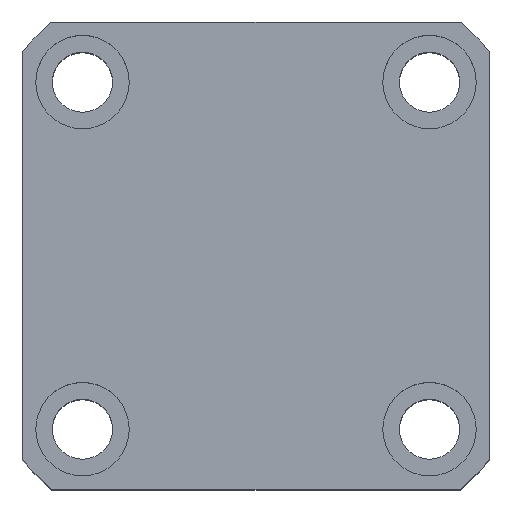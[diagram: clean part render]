
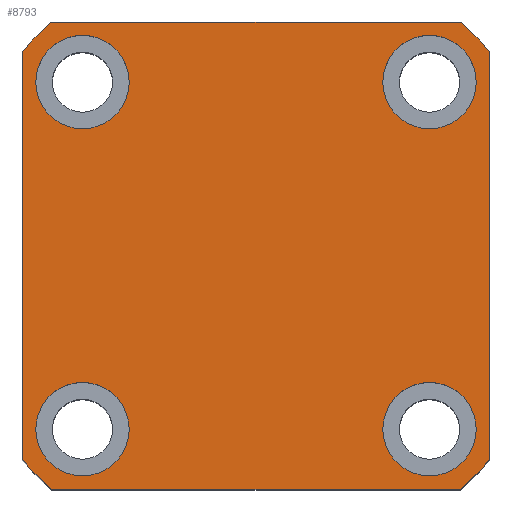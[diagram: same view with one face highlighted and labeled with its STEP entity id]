
A CAD part, top view. The second image highlights one B-rep face of the part: STEP entity #8793.
In plain terms, the highlighted planar face has unit normal (0, 0, 1).
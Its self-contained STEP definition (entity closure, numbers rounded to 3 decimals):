
#30 = VERTEX_POINT ( 'NONE', #6334 ) ;
#150 = DIRECTION ( 'NONE',  ( 1., 0., 0. ) ) ;
#218 = AXIS2_PLACEMENT_3D ( 'NONE', #8023, #3421, #8804 ) ;
#259 = DIRECTION ( 'NONE',  ( 1., 0., 0. ) ) ;
#336 = AXIS2_PLACEMENT_3D ( 'NONE', #3200, #8593, #3997 ) ;
#337 = DIRECTION ( 'NONE',  ( 1., 0., 0. ) ) ;
#611 = CARTESIAN_POINT ( 'NONE',  ( 0., 0., 70. ) ) ;
#653 = DIRECTION ( 'NONE',  ( 0., 0., 1. ) ) ;
#700 = EDGE_CURVE ( 'NONE', #976, #7197, #9334, .T. ) ;
#716 = ORIENTED_EDGE ( 'NONE', *, *, #6580, .F. ) ;
#734 = EDGE_CURVE ( 'NONE', #7418, #1880, #2719, .T. ) ;
#741 = CARTESIAN_POINT ( 'NONE',  ( -26., 26., 70. ) ) ;
#779 = DIRECTION ( 'NONE',  ( 1., 0., 0. ) ) ;
#831 = EDGE_CURVE ( 'NONE', #1880, #2671, #3806, .T. ) ;
#976 = VERTEX_POINT ( 'NONE', #5975 ) ;
#1054 = FACE_BOUND ( 'NONE', #9702, .T. ) ;
#1083 = CARTESIAN_POINT ( 'NONE',  ( 0., 0., 70. ) ) ;
#1089 = EDGE_CURVE ( 'NONE', #6070, #9196, #6915, .T. ) ;
#1149 = CARTESIAN_POINT ( 'NONE',  ( -19., -26., 70. ) ) ;
#1289 = EDGE_LOOP ( 'NONE', ( #6185, #2980, #2199, #9756, #9054, #7567, #2613, #7165 ) ) ;
#1307 = FACE_BOUND ( 'NONE', #6505, .T. ) ;
#1408 = DIRECTION ( 'NONE',  ( 1., 0., 0. ) ) ;
#1418 = LINE ( 'NONE', #5516, #1919 ) ;
#1436 = CIRCLE ( 'NONE', #6805, 7. ) ;
#1457 = AXIS2_PLACEMENT_3D ( 'NONE', #8721, #4118, #9504 ) ;
#1473 = EDGE_CURVE ( 'NONE', #4338, #3398, #1436, .T. ) ;
#1477 = ORIENTED_EDGE ( 'NONE', *, *, #700, .F. ) ;
#1479 = VECTOR ( 'NONE', #7550, 1000. ) ;
#1505 = CARTESIAN_POINT ( 'NONE',  ( 19., 26., 70. ) ) ;
#1540 = CARTESIAN_POINT ( 'NONE',  ( 33., -26., 70. ) ) ;
#1800 = EDGE_CURVE ( 'NONE', #30, #9366, #6656, .T. ) ;
#1822 = ORIENTED_EDGE ( 'NONE', *, *, #9448, .F. ) ;
#1880 = VERTEX_POINT ( 'NONE', #4173 ) ;
#1919 = VECTOR ( 'NONE', #7810, 1000. ) ;
#2041 = AXIS2_PLACEMENT_3D ( 'NONE', #2856, #4378, #6917 ) ;
#2043 = DIRECTION ( 'NONE',  ( 1., 0., 0. ) ) ;
#2062 = VERTEX_POINT ( 'NONE', #9673 ) ;
#2068 = DIRECTION ( 'NONE',  ( 0., 0., 1. ) ) ;
#2199 = ORIENTED_EDGE ( 'NONE', *, *, #2474, .T. ) ;
#2474 = EDGE_CURVE ( 'NONE', #8173, #4625, #3761, .T. ) ;
#2499 = CARTESIAN_POINT ( 'NONE',  ( 33., 26., 70. ) ) ;
#2613 = ORIENTED_EDGE ( 'NONE', *, *, #5944, .T. ) ;
#2661 = PLANE ( 'NONE',  #3678 ) ;
#2671 = VERTEX_POINT ( 'NONE', #7110 ) ;
#2719 = CIRCLE ( 'NONE', #2041, 46.5 ) ;
#2856 = CARTESIAN_POINT ( 'NONE',  ( 0., 0., 70. ) ) ;
#2859 = AXIS2_PLACEMENT_3D ( 'NONE', #3781, #5003, #2043 ) ;
#2947 = DIRECTION ( 'NONE',  ( 0., 0., 1. ) ) ;
#2980 = ORIENTED_EDGE ( 'NONE', *, *, #4254, .T. ) ;
#2994 = CIRCLE ( 'NONE', #7056, 7. ) ;
#3114 = FACE_OUTER_BOUND ( 'NONE', #1289, .T. ) ;
#3183 = EDGE_CURVE ( 'NONE', #5412, #8175, #1418, .T. ) ;
#3200 = CARTESIAN_POINT ( 'NONE',  ( 0., 0., 70. ) ) ;
#3275 = CARTESIAN_POINT ( 'NONE',  ( -35., -30.615, 70. ) ) ;
#3398 = VERTEX_POINT ( 'NONE', #5619 ) ;
#3421 = DIRECTION ( 'NONE',  ( 0., 0., 1. ) ) ;
#3592 = EDGE_CURVE ( 'NONE', #9196, #6070, #4103, .T. ) ;
#3678 = AXIS2_PLACEMENT_3D ( 'NONE', #1083, #5006, #337 ) ;
#3693 = ORIENTED_EDGE ( 'NONE', *, *, #1800, .F. ) ;
#3761 = LINE ( 'NONE', #8975, #4262 ) ;
#3781 = CARTESIAN_POINT ( 'NONE',  ( 26., 26., 70. ) ) ;
#3806 = LINE ( 'NONE', #6780, #1479 ) ;
#3926 = DIRECTION ( 'NONE',  ( 0., 0., 1. ) ) ;
#3997 = DIRECTION ( 'NONE',  ( 1., 0., 0. ) ) ;
#4028 = AXIS2_PLACEMENT_3D ( 'NONE', #9450, #4832, #150 ) ;
#4103 = CIRCLE ( 'NONE', #8091, 7. ) ;
#4118 = DIRECTION ( 'NONE',  ( 0., 0., 1. ) ) ;
#4173 = CARTESIAN_POINT ( 'NONE',  ( 35., -30.615, 70. ) ) ;
#4254 = EDGE_CURVE ( 'NONE', #2671, #8173, #8314, .T. ) ;
#4262 = VECTOR ( 'NONE', #5219, 1000. ) ;
#4338 = VERTEX_POINT ( 'NONE', #4996 ) ;
#4378 = DIRECTION ( 'NONE',  ( 0., 0., 1. ) ) ;
#4462 = CIRCLE ( 'NONE', #5232, 7. ) ;
#4523 = CARTESIAN_POINT ( 'NONE',  ( -26., 26., 70. ) ) ;
#4583 = CIRCLE ( 'NONE', #6963, 46.5 ) ;
#4611 = EDGE_CURVE ( 'NONE', #7197, #976, #6520, .T. ) ;
#4625 = VERTEX_POINT ( 'NONE', #4961 ) ;
#4825 = AXIS2_PLACEMENT_3D ( 'NONE', #8380, #653, #8880 ) ;
#4831 = CARTESIAN_POINT ( 'NONE',  ( 30.615, 35., 70. ) ) ;
#4832 = DIRECTION ( 'NONE',  ( 0., 0., 1. ) ) ;
#4961 = CARTESIAN_POINT ( 'NONE',  ( -30.615, 35., 70. ) ) ;
#4996 = CARTESIAN_POINT ( 'NONE',  ( -33., 26., 70. ) ) ;
#5003 = DIRECTION ( 'NONE',  ( 0., 0., 1. ) ) ;
#5006 = DIRECTION ( 'NONE',  ( 0., 0., 1. ) ) ;
#5083 = EDGE_CURVE ( 'NONE', #4625, #5412, #4583, .T. ) ;
#5205 = FACE_BOUND ( 'NONE', #8396, .T. ) ;
#5219 = DIRECTION ( 'NONE',  ( -1., 0., 0. ) ) ;
#5232 = AXIS2_PLACEMENT_3D ( 'NONE', #4523, #9901, #5294 ) ;
#5294 = DIRECTION ( 'NONE',  ( 1., 0., 0. ) ) ;
#5412 = VERTEX_POINT ( 'NONE', #8150 ) ;
#5467 = ORIENTED_EDGE ( 'NONE', *, *, #4611, .F. ) ;
#5516 = CARTESIAN_POINT ( 'NONE',  ( -35., 35., 70. ) ) ;
#5619 = CARTESIAN_POINT ( 'NONE',  ( -19., 26., 70. ) ) ;
#5660 = CARTESIAN_POINT ( 'NONE',  ( 30.615, -35., 70. ) ) ;
#5713 = CARTESIAN_POINT ( 'NONE',  ( -35., -35., 70. ) ) ;
#5732 = EDGE_LOOP ( 'NONE', ( #716, #7883 ) ) ;
#5782 = CIRCLE ( 'NONE', #336, 46.5 ) ;
#5944 = EDGE_CURVE ( 'NONE', #2062, #7418, #8652, .T. ) ;
#5975 = CARTESIAN_POINT ( 'NONE',  ( 19., -26., 70. ) ) ;
#6060 = DIRECTION ( 'NONE',  ( 0., 0., 1. ) ) ;
#6070 = VERTEX_POINT ( 'NONE', #1505 ) ;
#6185 = ORIENTED_EDGE ( 'NONE', *, *, #831, .T. ) ;
#6334 = CARTESIAN_POINT ( 'NONE',  ( -33., -26., 70. ) ) ;
#6505 = EDGE_LOOP ( 'NONE', ( #5467, #1477 ) ) ;
#6514 = ORIENTED_EDGE ( 'NONE', *, *, #3592, .F. ) ;
#6520 = CIRCLE ( 'NONE', #218, 7. ) ;
#6580 = EDGE_CURVE ( 'NONE', #3398, #4338, #4462, .T. ) ;
#6656 = CIRCLE ( 'NONE', #4028, 7. ) ;
#6706 = CARTESIAN_POINT ( 'NONE',  ( -26., -26., 70. ) ) ;
#6780 = CARTESIAN_POINT ( 'NONE',  ( 35., 35., 70. ) ) ;
#6805 = AXIS2_PLACEMENT_3D ( 'NONE', #741, #3926, #779 ) ;
#6826 = EDGE_CURVE ( 'NONE', #8175, #2062, #5782, .T. ) ;
#6915 = CIRCLE ( 'NONE', #2859, 7. ) ;
#6917 = DIRECTION ( 'NONE',  ( 1., 0., 0. ) ) ;
#6963 = AXIS2_PLACEMENT_3D ( 'NONE', #611, #6060, #1408 ) ;
#7056 = AXIS2_PLACEMENT_3D ( 'NONE', #6706, #2068, #7490 ) ;
#7110 = CARTESIAN_POINT ( 'NONE',  ( 35., 30.615, 70. ) ) ;
#7165 = ORIENTED_EDGE ( 'NONE', *, *, #734, .T. ) ;
#7197 = VERTEX_POINT ( 'NONE', #1540 ) ;
#7418 = VERTEX_POINT ( 'NONE', #5660 ) ;
#7490 = DIRECTION ( 'NONE',  ( 1., 0., 0. ) ) ;
#7550 = DIRECTION ( 'NONE',  ( 0., 1., 0. ) ) ;
#7567 = ORIENTED_EDGE ( 'NONE', *, *, #6826, .T. ) ;
#7574 = CARTESIAN_POINT ( 'NONE',  ( 26., 26., 70. ) ) ;
#7810 = DIRECTION ( 'NONE',  ( 0., -1., 0. ) ) ;
#7820 = VECTOR ( 'NONE', #259, 1000. ) ;
#7883 = ORIENTED_EDGE ( 'NONE', *, *, #1473, .F. ) ;
#8023 = CARTESIAN_POINT ( 'NONE',  ( 26., -26., 70. ) ) ;
#8091 = AXIS2_PLACEMENT_3D ( 'NONE', #7574, #2947, #8352 ) ;
#8150 = CARTESIAN_POINT ( 'NONE',  ( -35., 30.615, 70. ) ) ;
#8173 = VERTEX_POINT ( 'NONE', #4831 ) ;
#8175 = VERTEX_POINT ( 'NONE', #3275 ) ;
#8314 = CIRCLE ( 'NONE', #1457, 46.5 ) ;
#8352 = DIRECTION ( 'NONE',  ( 1., 0., 0. ) ) ;
#8380 = CARTESIAN_POINT ( 'NONE',  ( 26., -26., 70. ) ) ;
#8396 = EDGE_LOOP ( 'NONE', ( #1822, #3693 ) ) ;
#8593 = DIRECTION ( 'NONE',  ( 0., 0., 1. ) ) ;
#8652 = LINE ( 'NONE', #5713, #7820 ) ;
#8721 = CARTESIAN_POINT ( 'NONE',  ( 0., 0., 70. ) ) ;
#8793 = ADVANCED_FACE ( 'NONE', ( #5205, #1307, #1054, #9068, #3114 ), #2661, .T. ) ;
#8804 = DIRECTION ( 'NONE',  ( 1., 0., 0. ) ) ;
#8880 = DIRECTION ( 'NONE',  ( 1., 0., 0. ) ) ;
#8975 = CARTESIAN_POINT ( 'NONE',  ( -35., 35., 70. ) ) ;
#9054 = ORIENTED_EDGE ( 'NONE', *, *, #3183, .T. ) ;
#9068 = FACE_BOUND ( 'NONE', #5732, .T. ) ;
#9135 = ORIENTED_EDGE ( 'NONE', *, *, #1089, .F. ) ;
#9196 = VERTEX_POINT ( 'NONE', #2499 ) ;
#9334 = CIRCLE ( 'NONE', #4825, 7. ) ;
#9366 = VERTEX_POINT ( 'NONE', #1149 ) ;
#9448 = EDGE_CURVE ( 'NONE', #9366, #30, #2994, .T. ) ;
#9450 = CARTESIAN_POINT ( 'NONE',  ( -26., -26., 70. ) ) ;
#9504 = DIRECTION ( 'NONE',  ( 1., 0., 0. ) ) ;
#9673 = CARTESIAN_POINT ( 'NONE',  ( -30.615, -35., 70. ) ) ;
#9702 = EDGE_LOOP ( 'NONE', ( #6514, #9135 ) ) ;
#9756 = ORIENTED_EDGE ( 'NONE', *, *, #5083, .T. ) ;
#9901 = DIRECTION ( 'NONE',  ( 0., 0., 1. ) ) ;
